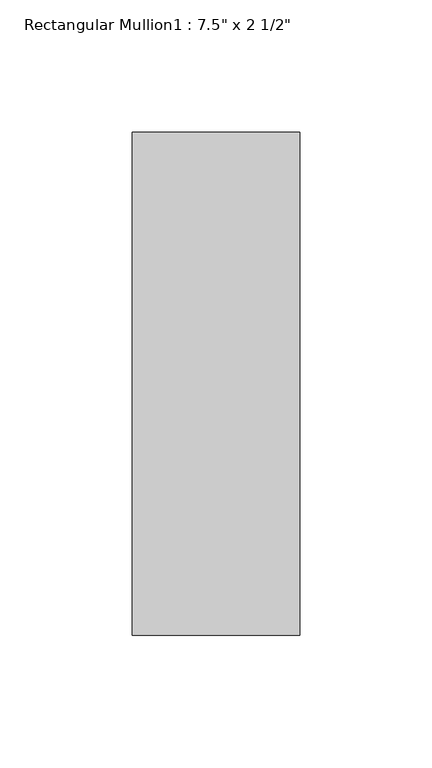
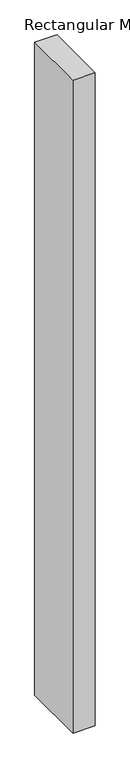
"""IFC4 building model written with IfcOpenShell, lengths in millimetres: member geometry."""

from ifc_helpers import new_model, si_unit, frame, origin, place, context, project, spatial, polyline, outline, extrude, source, transform, mapped, element, save


def member_0b8f1ec0(model_context):
    return source(origin(), model_context, "Body", "SweptSolid", [
        extrude(outline(polyline([(0.0, 165.1), (0.0, -25.4), (-63.5, -25.4), (-63.5, 165.1), (0.0, 165.1)])), frame((0.0, 0.0, -1981.2000015), z_axis=(0.0, 0.0, 1.0), x_axis=(1.0, 0.0, 0.0)), (0.0, 0.0, 1.0), 1981.2000015),
    ])


if __name__ == "__main__":
    model = new_model("IFC4")
    model_context = context("Model", 3, world=origin())
    ifc_project = project(units=[si_unit("LENGTHUNIT", "METRE", prefix="MILLI")], contexts=[model_context])
    site = spatial("IfcSite", under=ifc_project)
    building = spatial("IfcBuilding", under=site)
    placement = place(None, origin())
    member_shape = member_0b8f1ec0(model_context)
    element("IfcMember", 1, ObjectType="Rectangular Mullion1 : 7.5\" x 2 1/2\"", at=placement, inside=building, context=model_context, shape_type="MappedRepresentation", body=[
        mapped(member_shape, transform((0.0, 0.0, 0.0), x_axis=(1.0, 0.0, 0.0), y_axis=(0.0, 1.0, 0.0), z_axis=(0.0, 0.0, 1.0))),
    ])
    save(model, "model.ifc")
